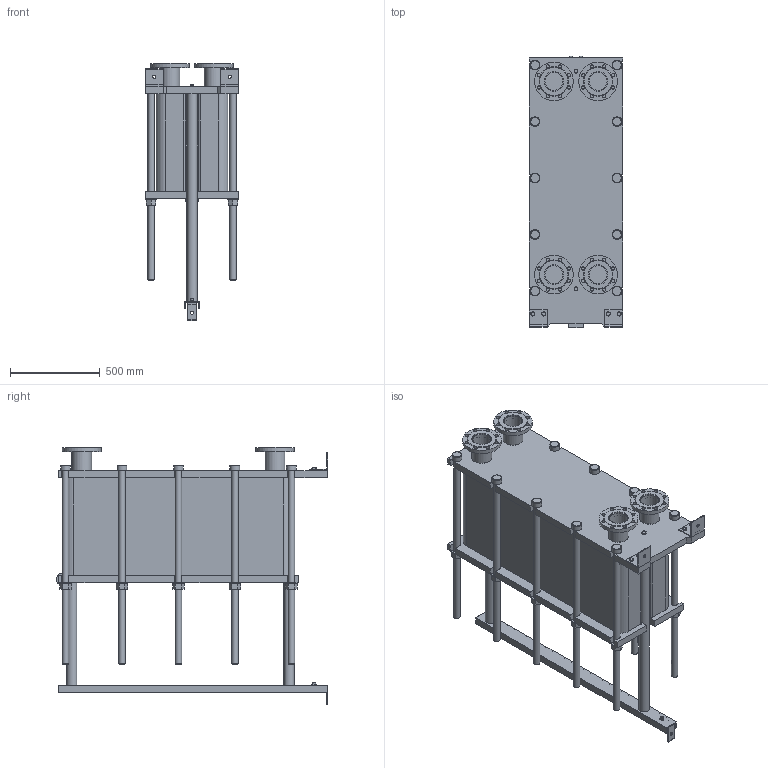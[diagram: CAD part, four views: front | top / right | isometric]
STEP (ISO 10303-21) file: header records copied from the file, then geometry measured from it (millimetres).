
FILE_DESCRIPTION(/* description */ (''),/* implementation_level */ '2;1');
FILE_NAME(/* name */ 'C:\Users\zhuro\Desktop\ENCO\TO\ЭН-04\ЭН-0,5-04-158-1.stp',/* time_stamp */ '2022-06-06T10:59:23+03:00',/* author */ ('zhuro'),/* organization */ (''),/* preprocessor_version */ 'ST-DEVELOPER v18.1',/* originating_system */ 'Autodesk Inventor 2022',/* authorisation */ '');
FILE_SCHEMA (('AUTOMOTIVE_DESIGN { 1 0 10303 214 3 1 1 }'));
Length unit declared in the file: millimetre
Products named in the file (1): ЭН-0,5-04-158-1
Bounding box: 520 x 1510 x 1434 mm (x, y, z)
Volume: 346745114 mm3; surface area: 9630687.4 mm2
Topology: 45 solids, 45 shells, 668 faces, 1611 edges, 1048 vertices
Faces by surface type: plane 457, cylinder 166, cone 39, torus 6
Full cylindrical faces by diameter (mm): 8 x4, 10 x2, 16 x8, 18 x35, 36 x25, 40 x2, 42 x1, 45 x4, 54 x10, 57 x2, 60 x10, 68 x2, 100 x4, 110 x8, 215 x4
Entity records: 23607 total; most frequent: CARTESIAN_POINT 7348, DIRECTION 3371, ORIENTED_EDGE 3142, EDGE_CURVE 1571, AXIS2_PLACEMENT_3D 1199, VERTEX_POINT 1044, LINE 973, VECTOR 973
